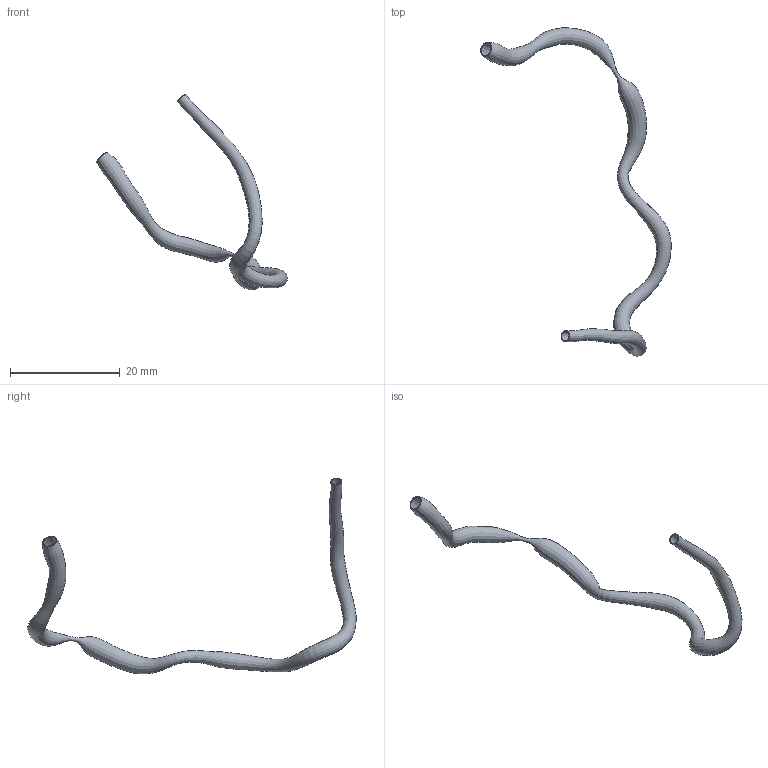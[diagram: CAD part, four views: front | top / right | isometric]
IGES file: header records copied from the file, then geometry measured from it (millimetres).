
Global section: file name: C:\Documents and Settings\Administrator\Desktop\FDA Bifurcation win\RawData_for_IGES\HRCA_Data\20010719.140840\IGES\20010719.140840.RCA.SEG.ES.igs; native system: Rhinoceros ( May 19 2006 ); preprocessor: Trout Lake IGES 012 May 19 2006; date: 100728.210822; units: centimetre
Bounding box: 34.77 x 59.88 x 35.68 mm (x, y, z)
Surface area: 1990.1 mm2 (no closed solid volume)
Topology: 0 solids, 0 shells, 4 faces, 12 edges, 8 vertices
Faces by surface type: bspline 4
